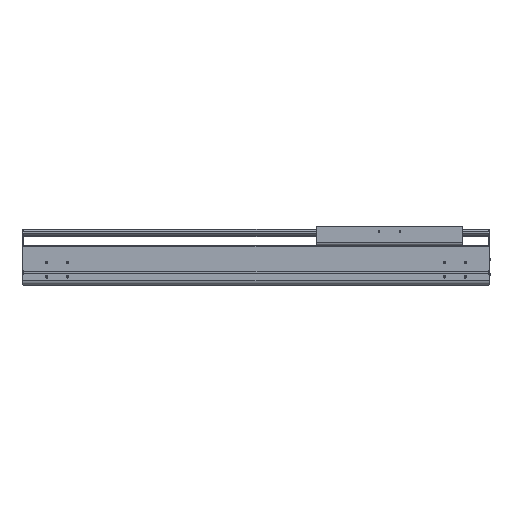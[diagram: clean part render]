
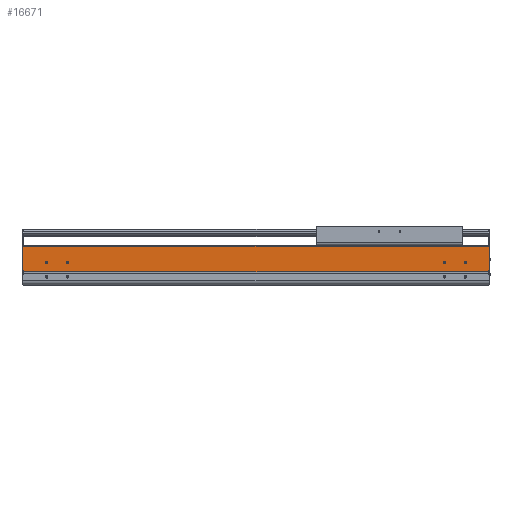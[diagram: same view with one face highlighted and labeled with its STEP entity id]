
A CAD part, top view. The second image highlights one B-rep face of the part: STEP entity #16671.
In plain terms, the highlighted planar face has unit normal (0, 0, 1).
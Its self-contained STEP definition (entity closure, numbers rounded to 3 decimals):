
#525=DIRECTION('',(0.,-1.,0.));
#526=VECTOR('',#525,2.55);
#527=CARTESIAN_POINT('',(0.,34.65,107.));
#528=LINE('',#527,#526);
#2150=DIRECTION('',(1.,0.,0.));
#2151=VECTOR('',#2150,2.);
#2152=CARTESIAN_POINT('',(0.,34.65,107.));
#2153=LINE('',#2152,#2151);
#2158=CARTESIAN_POINT('',(-54.5,54.,107.));
#2159=DIRECTION('',(0.,0.,-1.));
#2160=DIRECTION('',(1.,0.,0.));
#2161=AXIS2_PLACEMENT_3D('',#2158,#2159,#2160);
#2163=CARTESIAN_POINT('',(-54.5,54.,107.));
#2164=DIRECTION('',(0.,0.,-1.));
#2165=DIRECTION('',(-1.,0.,0.));
#2166=AXIS2_PLACEMENT_3D('',#2163,#2164,#2165);
#2168=CARTESIAN_POINT('',(-104.5,54.,107.));
#2169=DIRECTION('',(0.,0.,-1.));
#2170=DIRECTION('',(1.,0.,0.));
#2171=AXIS2_PLACEMENT_3D('',#2168,#2169,#2170);
#2173=CARTESIAN_POINT('',(-104.5,54.,107.));
#2174=DIRECTION('',(0.,0.,-1.));
#2175=DIRECTION('',(-1.,0.,0.));
#2176=AXIS2_PLACEMENT_3D('',#2173,#2174,#2175);
#2178=CARTESIAN_POINT('',(-1054.5,54.,107.));
#2179=DIRECTION('',(0.,0.,-1.));
#2180=DIRECTION('',(1.,0.,0.));
#2181=AXIS2_PLACEMENT_3D('',#2178,#2179,#2180);
#2183=CARTESIAN_POINT('',(-1054.5,54.,107.));
#2184=DIRECTION('',(0.,0.,-1.));
#2185=DIRECTION('',(-1.,0.,0.));
#2186=AXIS2_PLACEMENT_3D('',#2183,#2184,#2185);
#2188=CARTESIAN_POINT('',(-1004.5,54.,107.));
#2189=DIRECTION('',(0.,0.,-1.));
#2190=DIRECTION('',(1.,0.,0.));
#2191=AXIS2_PLACEMENT_3D('',#2188,#2189,#2190);
#2193=CARTESIAN_POINT('',(-1004.5,54.,107.));
#2194=DIRECTION('',(0.,0.,-1.));
#2195=DIRECTION('',(-1.,0.,0.));
#2196=AXIS2_PLACEMENT_3D('',#2193,#2194,#2195);
#2198=DIRECTION('',(0.,-1.,0.));
#2199=VECTOR('',#2198,2.55);
#2200=CARTESIAN_POINT('',(-1109.,34.65,107.));
#2201=LINE('',#2200,#2199);
#2202=DIRECTION('',(0.,-1.,0.));
#2203=VECTOR('',#2202,58.85);
#2204=CARTESIAN_POINT('',(-1111.,93.5,107.));
#2205=LINE('',#2204,#2203);
#2206=DIRECTION('',(0.,1.,0.));
#2207=VECTOR('',#2206,58.85);
#2208=CARTESIAN_POINT('',(2.,34.65,107.));
#2209=LINE('',#2208,#2207);
#2210=DIRECTION('',(1.,0.,0.));
#2211=VECTOR('',#2210,1109.);
#2212=CARTESIAN_POINT('',(-1109.,32.1,107.));
#2213=LINE('',#2212,#2211);
#2322=DIRECTION('',(1.,0.,0.));
#2323=VECTOR('',#2322,2.);
#2324=CARTESIAN_POINT('',(-1111.,34.65,107.));
#2325=LINE('',#2324,#2323);
#2334=DIRECTION('',(-1.,0.,0.));
#2335=VECTOR('',#2334,1113.);
#2336=CARTESIAN_POINT('',(2.,93.5,107.));
#2337=LINE('',#2336,#2335);
#11029=CARTESIAN_POINT('',(-1111.,34.65,107.));
#11030=VERTEX_POINT('',#11029);
#11031=CARTESIAN_POINT('',(-1111.,93.5,107.));
#11032=VERTEX_POINT('',#11031);
#11261=CARTESIAN_POINT('',(-1109.,32.1,107.));
#11262=VERTEX_POINT('',#11261);
#11723=CARTESIAN_POINT('',(0.,32.1,107.));
#11724=VERTEX_POINT('',#11723);
#11725=CARTESIAN_POINT('',(-52.,54.,107.));
#11726=CARTESIAN_POINT('',(-57.,54.,107.));
#11727=VERTEX_POINT('',#11725);
#11728=VERTEX_POINT('',#11726);
#11729=CARTESIAN_POINT('',(-102.,54.,107.));
#11730=CARTESIAN_POINT('',(-107.,54.,107.));
#11731=VERTEX_POINT('',#11729);
#11732=VERTEX_POINT('',#11730);
#11733=CARTESIAN_POINT('',(-1052.,54.,107.));
#11734=CARTESIAN_POINT('',(-1057.,54.,107.));
#11735=VERTEX_POINT('',#11733);
#11736=VERTEX_POINT('',#11734);
#11737=CARTESIAN_POINT('',(-1002.,54.,107.));
#11738=CARTESIAN_POINT('',(-1007.,54.,107.));
#11739=VERTEX_POINT('',#11737);
#11740=VERTEX_POINT('',#11738);
#12780=CARTESIAN_POINT('',(2.,34.65,107.));
#12781=VERTEX_POINT('',#12780);
#12782=CARTESIAN_POINT('',(2.,93.5,107.));
#12783=VERTEX_POINT('',#12782);
#13126=CARTESIAN_POINT('',(0.,34.65,107.));
#13127=VERTEX_POINT('',#13126);
#13314=CARTESIAN_POINT('',(-1109.,34.65,107.));
#13315=VERTEX_POINT('',#13314);
#16629=CARTESIAN_POINT('',(-554.5,62.8,107.));
#16630=DIRECTION('',(0.,0.,1.));
#16631=DIRECTION('',(0.,-1.,0.));
#16632=AXIS2_PLACEMENT_3D('',#16629,#16630,#16631);
#16633=PLANE('',#16632);
#16634=ORIENTED_EDGE('',*,*,#14098,.F.);
#16636=ORIENTED_EDGE('',*,*,#16635,.F.);
#16637=ORIENTED_EDGE('',*,*,#15197,.F.);
#16639=ORIENTED_EDGE('',*,*,#16638,.F.);
#16640=ORIENTED_EDGE('',*,*,#16427,.F.);
#16641=ORIENTED_EDGE('',*,*,#16622,.F.);
#16642=ORIENTED_EDGE('',*,*,#14713,.T.);
#16644=ORIENTED_EDGE('',*,*,#16643,.F.);
#16645=EDGE_LOOP('',(#16634,#16636,#16637,#16639,#16640,#16641,#16642,#16644));
#16646=FACE_OUTER_BOUND('',#16645,.F.);
#16648=ORIENTED_EDGE('',*,*,#16647,.F.);
#16650=ORIENTED_EDGE('',*,*,#16649,.F.);
#16651=EDGE_LOOP('',(#16648,#16650));
#16652=FACE_BOUND('',#16651,.F.);
#16654=ORIENTED_EDGE('',*,*,#16653,.F.);
#16656=ORIENTED_EDGE('',*,*,#16655,.F.);
#16657=EDGE_LOOP('',(#16654,#16656));
#16658=FACE_BOUND('',#16657,.F.);
#16660=ORIENTED_EDGE('',*,*,#16659,.F.);
#16662=ORIENTED_EDGE('',*,*,#16661,.F.);
#16663=EDGE_LOOP('',(#16660,#16662));
#16664=FACE_BOUND('',#16663,.F.);
#16666=ORIENTED_EDGE('',*,*,#16665,.F.);
#16668=ORIENTED_EDGE('',*,*,#16667,.F.);
#16669=EDGE_LOOP('',(#16666,#16668));
#16670=FACE_BOUND('',#16669,.F.);
#16671=ADVANCED_FACE('',(#16646,#16652,#16658,#16664,#16670),#16633,.T.);
#2162=CIRCLE('',#2161,2.5);
#2167=CIRCLE('',#2166,2.5);
#2172=CIRCLE('',#2171,2.5);
#2177=CIRCLE('',#2176,2.5);
#2182=CIRCLE('',#2181,2.5);
#2187=CIRCLE('',#2186,2.5);
#2192=CIRCLE('',#2191,2.5);
#2197=CIRCLE('',#2196,2.5);
#14098=EDGE_CURVE('',#13315,#11262,#2201,.T.);
#14713=EDGE_CURVE('',#13127,#11724,#528,.T.);
#15197=EDGE_CURVE('',#11032,#11030,#2205,.T.);
#16427=EDGE_CURVE('',#12781,#12783,#2209,.T.);
#16622=EDGE_CURVE('',#13127,#12781,#2153,.T.);
#16635=EDGE_CURVE('',#11030,#13315,#2325,.T.);
#16638=EDGE_CURVE('',#12783,#11032,#2337,.T.);
#16643=EDGE_CURVE('',#11262,#11724,#2213,.T.);
#16647=EDGE_CURVE('',#11731,#11732,#2172,.T.);
#16649=EDGE_CURVE('',#11732,#11731,#2177,.T.);
#16653=EDGE_CURVE('',#11735,#11736,#2182,.T.);
#16655=EDGE_CURVE('',#11736,#11735,#2187,.T.);
#16659=EDGE_CURVE('',#11739,#11740,#2192,.T.);
#16661=EDGE_CURVE('',#11740,#11739,#2197,.T.);
#16665=EDGE_CURVE('',#11727,#11728,#2162,.T.);
#16667=EDGE_CURVE('',#11728,#11727,#2167,.T.);
